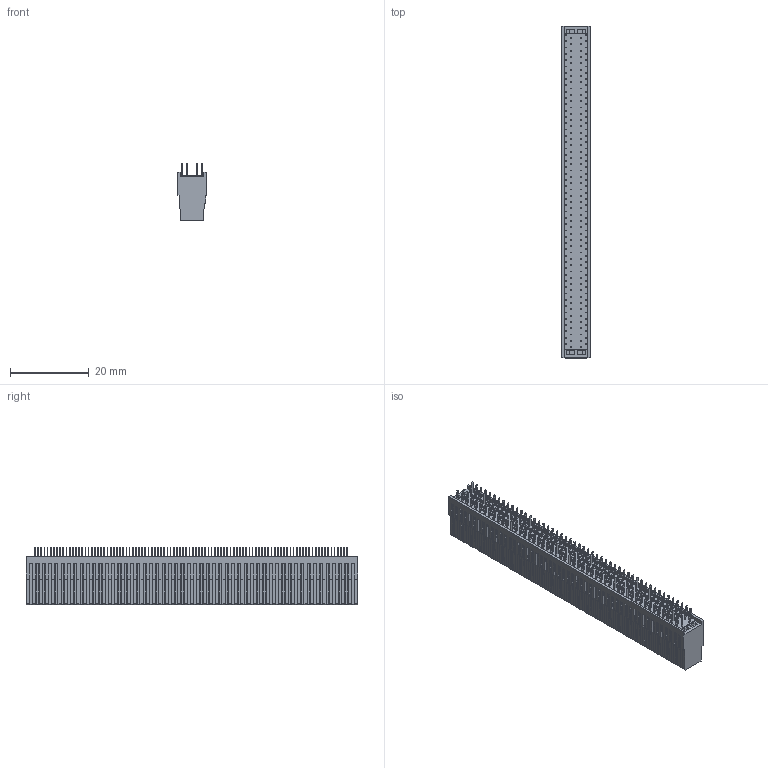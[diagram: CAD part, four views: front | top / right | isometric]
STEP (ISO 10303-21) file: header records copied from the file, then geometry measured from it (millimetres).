
FILE_DESCRIPTION((''),'2;1');
FILE_NAME('1706731200','2015-02-19T',('me'),(''),'PRO/ENGINEER BY PARAMETRIC TECHNOLOGY CORPORATION, 2011490','PRO/ENGINEER BY PARAMETRIC TECHNOLOGY CORPORATION, 2011490','');
FILE_SCHEMA(('CONFIG_CONTROL_DESIGN'));
Products named in the file (1): 1706731200
Bounding box: 7.31 x 84.2 x 14.63 mm (x, y, z)
Volume: 4709.8 mm3; surface area: 8566.2 mm2
Topology: 1 solids, 1 shells, 3289 faces, 9648 edges, 6564 vertices
Faces by surface type: plane 3081, cylinder 208
Entity records: 107399 total; most frequent: CARTESIAN_POINT 20912, ORIENTED_EDGE 18496, DIRECTION 16004, EDGE_CURVE 9248, VECTOR 8624, LINE 8624, VERTEX_POINT 6164, AXIS2_PLACEMENT_3D 3690
